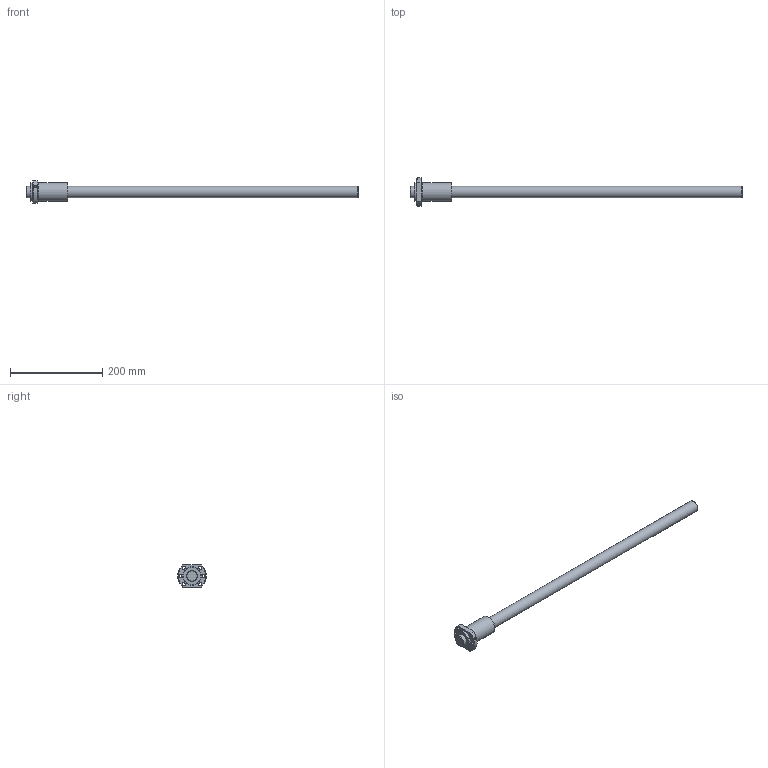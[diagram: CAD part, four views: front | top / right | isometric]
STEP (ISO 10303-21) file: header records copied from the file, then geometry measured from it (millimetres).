
FILE_DESCRIPTION(/* description */ ('STEP AP214'),/* implementation_level */ '2;1');
FILE_NAME(/* name */ 'EBB2510-3RRG0+720LC0-ebb2(620G000)-ebb2',/* time_stamp */ '2023-08-03T12:38:35+02:00',/* author */ ('License CC BY-ND 4.0'),/* organization */ ('CADENAS'),/* preprocessor_version */ 'ST-DEVELOPER v19.3',/* originating_system */ 'PARTsolutions',/* authorisation */ ' ');
FILE_SCHEMA (('AUTOMOTIVE_DESIGN {1 0 10303 214 3 1 1}'));
Length unit declared in the file: millimetre
Products named in the file (3): EBB2510-3RRG0+720LC0-ebb2(620G000)-ebb2; EBB 2510-3RR Nut2; EBB 2510-36200 Shaft2
Assembly tree (2 placements, depth 2):
  EBB2510-3RRG0+720LC0-ebb2(620G000)-ebb2
    EBB 2510-3RR Nut2
    EBB 2510-36200 Shaft2
Bounding box: 720 x 61.8 x 48 mm (x, y, z)
Volume: 425423.4 mm3; surface area: 79788.9 mm2
Topology: 2 solids, 2 shells, 32 faces, 72 edges, 47 vertices
Faces by surface type: cylinder 14, cone 9, plane 9
Full cylindrical faces by diameter (mm): 4.917 x1, 6.6 x6, 25 x2, 37.6 x1, 40 x2
Entity records: 935 total; most frequent: CARTESIAN_POINT 177, DIRECTION 148, ORIENTED_EDGE 106, AXIS2_PLACEMENT_3D 70, EDGE_LOOP 68, FACE_BOUND 68, EDGE_CURVE 53, VERTEX_POINT 45
